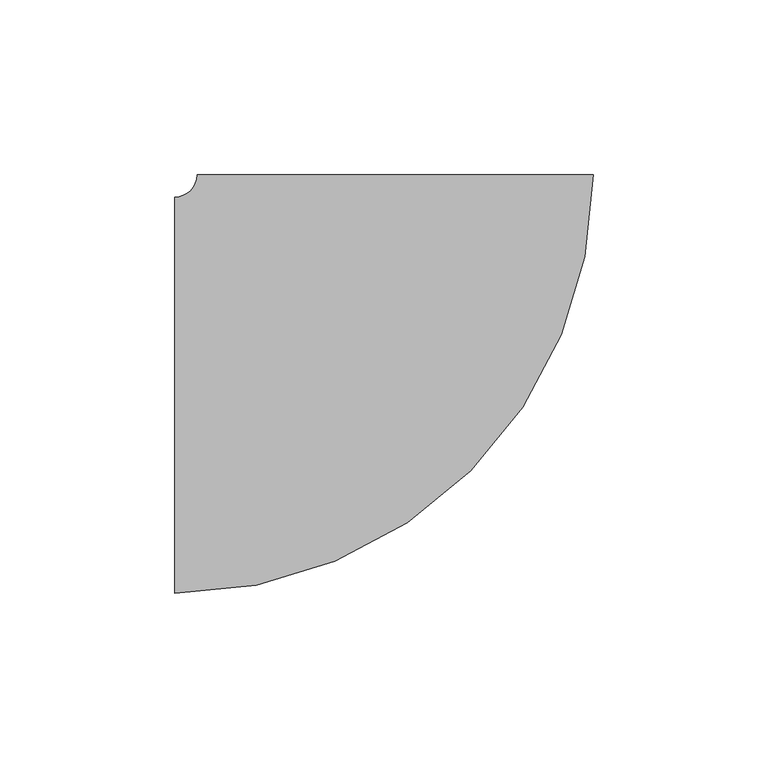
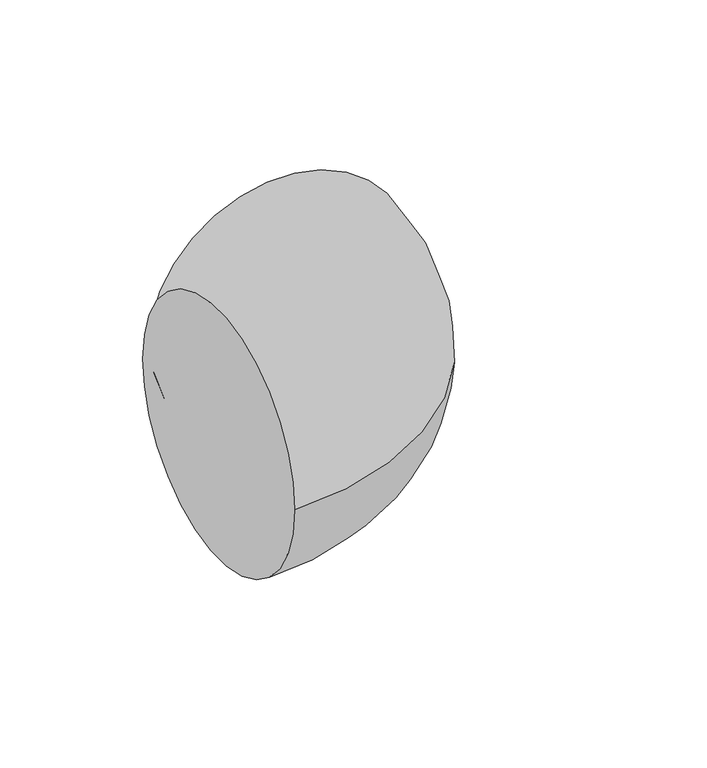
"""IFC4 building model written with IfcOpenShell, lengths in millimetres: pipe fitting geometry, M_Codo - Genérico : Estándar."""

from ifc_helpers import new_model, si_unit, point, frame, origin, place, context, project, spatial, circle_curve, ellipse_curve, trimmed, source, transform, mapped, element, save
from ifc_brep_helpers import plane_surface, revolved_surface, advanced_brep


def pipe_fitting_e199d81e(model_context):
    return source(origin(), model_context, "Body", "AdvancedBrep", [
        advanced_brep(
        [(-62.9387707, -56.5875, 0.0), (-62.9387707, 56.5875, 0.0), (56.5862293, 62.9399132, 0.0), (-56.5887707, 62.9376282, 0.0)],
        [
            (0, 1, circle_curve(frame((-62.9387707, 0.0, 0.0), z_axis=(-1.0, 0.0, 0.0), x_axis=(0.0, 1.0, 0.0)), 56.5875)),
            (1, 0, circle_curve(frame((-62.9387707, 0.0, 0.0), z_axis=(-1.0, 0.0, 0.0), x_axis=(0.0, 1.0, 0.0)), 56.5875)),
            (2, 3, circle_curve(frame((-0.0012707, 62.9387707, 0.0), z_axis=(-2.0189940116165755e-05, 0.9999999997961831, 0.0), x_axis=(-0.9999999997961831, -2.0189940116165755e-05, 0.0)), 56.5875)),
            (3, 2, circle_curve(frame((-0.0012707, 62.9387707, 0.0), z_axis=(-2.0189940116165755e-05, 0.9999999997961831, 0.0), x_axis=(-0.9999999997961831, -2.0189940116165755e-05, 0.0)), 56.5875)),
            (3, 1, circle_curve(frame((-62.9387707, 62.9375, 0.0), z_axis=(0.0, 0.0, -1.0), x_axis=(0.0, -1.0, 0.0)), 6.35)),
            (0, 2, circle_curve(frame((-62.9387707, 62.9375, 0.0), z_axis=(0.0, 0.0, 1.0), x_axis=(0.0, -1.0, 0.0)), 119.525)),
        ],
        [
            plane_surface(frame((-62.9387707, 0.0, 0.0), z_axis=(-1.0, 0.0, 0.0), x_axis=(0.0, 0.0, 1.0))),
            plane_surface(frame((-0.0012707, 62.9387707, 0.0), z_axis=(-2.0189940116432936e-05, 0.9999999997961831, 0.0), x_axis=(0.0, 0.0, 1.0))),
            revolved_surface(trimmed(ellipse_curve(frame((-62.9387707, 0.0, 0.0), z_axis=(-1.0, 0.0, 0.0), x_axis=(0.0, 1.0, 0.0)), 56.5875, 56.5875), [point((-62.9387707, -56.5875, 0.0))], [point((-62.9387707, 56.5875, 0.0))], True, "CARTESIAN"), (-62.9387707, 62.9375, 0.0), (0.0, 0.0, 1.0)),
            revolved_surface(trimmed(ellipse_curve(frame((-62.9387707, 0.0, 0.0), z_axis=(-1.0, 0.0, 0.0), x_axis=(0.0, 1.0, 0.0)), 56.5875, 56.5875), [point((-62.9387707, 56.5875, 0.0))], [point((-62.9387707, -56.5875, 0.0))], True, "CARTESIAN"), (-62.9387707, 62.9375, 0.0), (0.0, 0.0, 1.0)),
        ],
        [
            (0, [[1, 2]]),
            (1, [[3, 4]]),
            (2, [[5, -1, 6, -4]]),
            (3, [[-6, -2, -5, -3]]),
        ],
    ),
    ])


if __name__ == "__main__":
    model = new_model("IFC4")
    model_context = context("Model", 3, world=origin())
    ifc_project = project(units=[si_unit("LENGTHUNIT", "METRE", prefix="MILLI")], contexts=[model_context])
    site = spatial("IfcSite", under=ifc_project)
    building = spatial("IfcBuilding", under=site)
    placement = place(None, origin())
    pipe_fitting_shape = pipe_fitting_e199d81e(model_context)
    element("IfcPipeFitting", 1, ObjectType="M_Codo - Genérico : Estándar", at=placement, inside=building, context=model_context, shape_type="MappedRepresentation", body=[
        mapped(pipe_fitting_shape, transform((0.0, 0.0, 0.0), x_axis=(1.0, 0.0, 0.0), y_axis=(0.0, 1.0, 0.0), z_axis=(0.0, 0.0, 1.0))),
    ])
    save(model, "model.ifc")
